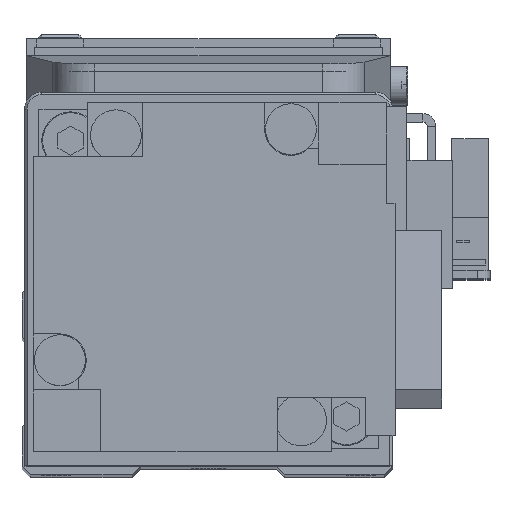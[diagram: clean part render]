
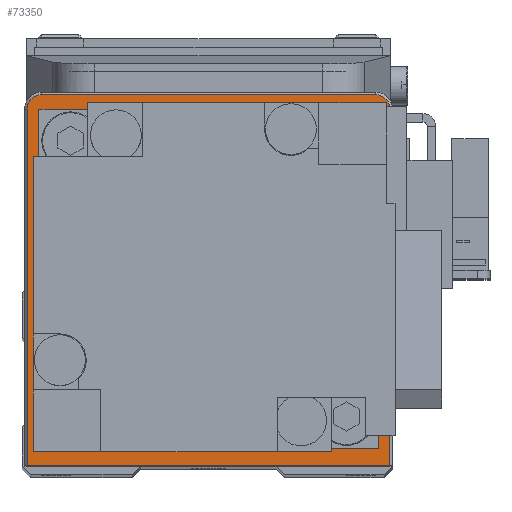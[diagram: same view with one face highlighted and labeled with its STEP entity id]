
A CAD part, top view. The second image highlights one B-rep face of the part: STEP entity #73350.
In plain terms, the highlighted planar face has unit normal (0, 0, 1).
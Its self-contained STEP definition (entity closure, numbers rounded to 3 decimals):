
#974 = CARTESIAN_POINT ( 'NONE',  ( -21.7, -6.974, 159. ) ) ;
#1309 = VECTOR ( 'NONE', #35277, 1000. ) ;
#1751 = DIRECTION ( 'NONE',  ( 1., 0., 0. ) ) ;
#2302 = DIRECTION ( 'NONE',  ( 0., 0., 1. ) ) ;
#2892 = EDGE_CURVE ( 'NONE', #31816, #62851, #65414, .T. ) ;
#4589 = CARTESIAN_POINT ( 'NONE',  ( 21.4, 35.026, 159. ) ) ;
#5130 = VERTEX_POINT ( 'NONE', #41152 ) ;
#6361 = CIRCLE ( 'NONE', #61242, 1.7 ) ;
#7969 = CIRCLE ( 'NONE', #72272, 10. ) ;
#8906 = CARTESIAN_POINT ( 'NONE',  ( -21.4, -6.974, 159. ) ) ;
#10033 = VECTOR ( 'NONE', #20375, 1000. ) ;
#11460 = DIRECTION ( 'NONE',  ( 0., 0., 1. ) ) ;
#13782 = LINE ( 'NONE', #17200, #62424 ) ;
#17109 = EDGE_CURVE ( 'NONE', #72123, #60048, #41081, .T. ) ;
#17200 = CARTESIAN_POINT ( 'NONE',  ( -19.7, 36.726, 159. ) ) ;
#17549 = DIRECTION ( 'NONE',  ( 0., 0., 1. ) ) ;
#18835 = DIRECTION ( 'NONE',  ( 0., 0., 1. ) ) ;
#20375 = DIRECTION ( 'NONE',  ( 1., 0., 0. ) ) ;
#22410 = CARTESIAN_POINT ( 'NONE',  ( -10., 15.026, 159. ) ) ;
#23573 = DIRECTION ( 'NONE',  ( -1., 0., 0. ) ) ;
#24957 = CIRCLE ( 'NONE', #73633, 1.7 ) ;
#25263 = VERTEX_POINT ( 'NONE', #22410 ) ;
#25888 = CARTESIAN_POINT ( 'NONE',  ( 0., 15.026, 159. ) ) ;
#28060 = CARTESIAN_POINT ( 'NONE',  ( 21.4, 35.026, 159. ) ) ;
#29796 = FACE_OUTER_BOUND ( 'NONE', #39119, .T. ) ;
#31816 = VERTEX_POINT ( 'NONE', #64899 ) ;
#34581 = DIRECTION ( 'NONE',  ( 0., 0., 1. ) ) ;
#34853 = CARTESIAN_POINT ( 'NONE',  ( -21.4, 35.026, 159. ) ) ;
#35277 = DIRECTION ( 'NONE',  ( 0., -1., 0. ) ) ;
#36632 = AXIS2_PLACEMENT_3D ( 'NONE', #25888, #17549, #61927 ) ;
#38191 = ORIENTED_EDGE ( 'NONE', *, *, #2892, .T. ) ;
#39119 = EDGE_LOOP ( 'NONE', ( #68196, #38191, #75533, #50781, #78896, #46185 ) ) ;
#39532 = CARTESIAN_POINT ( 'NONE',  ( 0., 15.026, 159. ) ) ;
#39808 = FACE_BOUND ( 'NONE', #66530, .T. ) ;
#40558 = CARTESIAN_POINT ( 'NONE',  ( 10., 15.026, 159. ) ) ;
#41081 = LINE ( 'NONE', #8906, #1309 ) ;
#41152 = CARTESIAN_POINT ( 'NONE',  ( 19.7, 36.726, 159. ) ) ;
#42740 = LINE ( 'NONE', #974, #10033 ) ;
#43101 = DIRECTION ( 'NONE',  ( 1., 0., 0. ) ) ;
#44609 = EDGE_CURVE ( 'NONE', #68269, #72123, #24957, .T. ) ;
#44653 = CARTESIAN_POINT ( 'NONE',  ( 0., 15.026, 159. ) ) ;
#46185 = ORIENTED_EDGE ( 'NONE', *, *, #17109, .T. ) ;
#47115 = CARTESIAN_POINT ( 'NONE',  ( -21.4, -6.974, 159. ) ) ;
#50435 = EDGE_CURVE ( 'NONE', #65270, #25263, #69439, .T. ) ;
#50781 = ORIENTED_EDGE ( 'NONE', *, *, #80337, .T. ) ;
#52017 = EDGE_CURVE ( 'NONE', #62851, #5130, #6361, .T. ) ;
#52856 = EDGE_CURVE ( 'NONE', #60048, #31816, #42740, .T. ) ;
#53944 = DIRECTION ( 'NONE',  ( 1., 0., 0. ) ) ;
#55745 = EDGE_CURVE ( 'NONE', #25263, #65270, #7969, .T. ) ;
#56128 = DIRECTION ( 'NONE',  ( 0., 1., 0. ) ) ;
#57606 = DIRECTION ( 'NONE',  ( 1., 0., 0. ) ) ;
#60048 = VERTEX_POINT ( 'NONE', #47115 ) ;
#60439 = ORIENTED_EDGE ( 'NONE', *, *, #55745, .F. ) ;
#61138 = CARTESIAN_POINT ( 'NONE',  ( -19.7, 36.726, 159. ) ) ;
#61242 = AXIS2_PLACEMENT_3D ( 'NONE', #68895, #11460, #43101 ) ;
#61927 = DIRECTION ( 'NONE',  ( 1., 0., 0. ) ) ;
#62424 = VECTOR ( 'NONE', #23573, 1000. ) ;
#62851 = VERTEX_POINT ( 'NONE', #28060 ) ;
#64899 = CARTESIAN_POINT ( 'NONE',  ( 21.4, -6.974, 159. ) ) ;
#65270 = VERTEX_POINT ( 'NONE', #40558 ) ;
#65414 = LINE ( 'NONE', #4589, #66387 ) ;
#66387 = VECTOR ( 'NONE', #56128, 1000. ) ;
#66530 = EDGE_LOOP ( 'NONE', ( #60439, #79374 ) ) ;
#68196 = ORIENTED_EDGE ( 'NONE', *, *, #52856, .T. ) ;
#68269 = VERTEX_POINT ( 'NONE', #61138 ) ;
#68513 = PLANE ( 'NONE',  #79430 ) ;
#68895 = CARTESIAN_POINT ( 'NONE',  ( 19.7, 35.026, 159. ) ) ;
#69439 = CIRCLE ( 'NONE', #36632, 10. ) ;
#72123 = VERTEX_POINT ( 'NONE', #34853 ) ;
#72272 = AXIS2_PLACEMENT_3D ( 'NONE', #39532, #2302, #1751 ) ;
#72554 = CARTESIAN_POINT ( 'NONE',  ( -19.7, 35.026, 159. ) ) ;
#73350 = ADVANCED_FACE ( 'NONE', ( #29796, #39808 ), #68513, .T. ) ;
#73633 = AXIS2_PLACEMENT_3D ( 'NONE', #72554, #34581, #53944 ) ;
#75533 = ORIENTED_EDGE ( 'NONE', *, *, #52017, .T. ) ;
#78896 = ORIENTED_EDGE ( 'NONE', *, *, #44609, .T. ) ;
#79374 = ORIENTED_EDGE ( 'NONE', *, *, #50435, .F. ) ;
#79430 = AXIS2_PLACEMENT_3D ( 'NONE', #44653, #18835, #57606 ) ;
#80337 = EDGE_CURVE ( 'NONE', #5130, #68269, #13782, .T. ) ;
